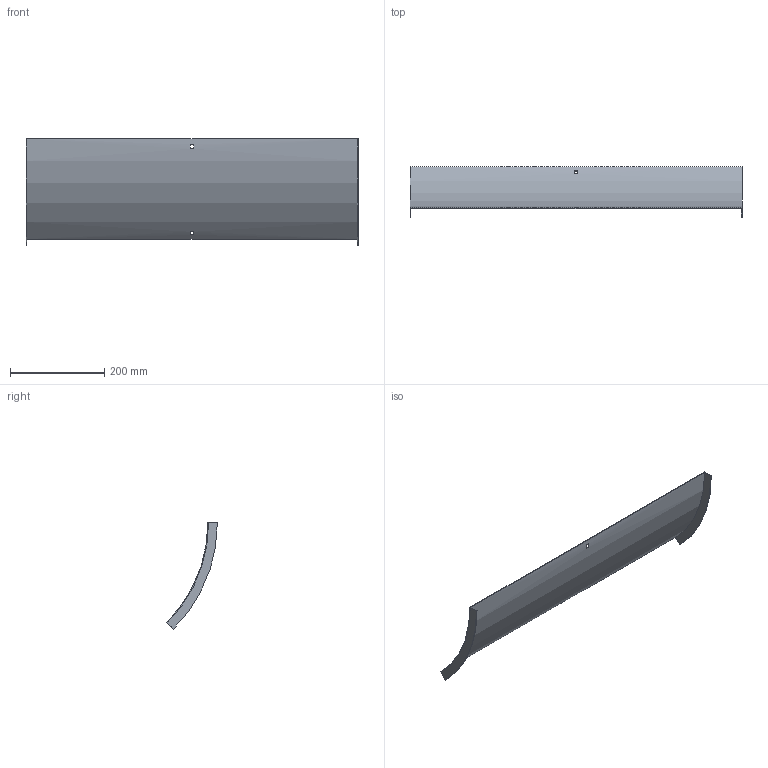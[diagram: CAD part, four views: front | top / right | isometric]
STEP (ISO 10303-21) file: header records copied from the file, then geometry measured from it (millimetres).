
FILE_DESCRIPTION (( 'STEP AP214' ), '1' );
FILE_NAME ('B2X31N3R700X.step', '2025-03-20T09:42:24', ( '' ), ( '' ), 'SwSTEP 2.0', 'SolidWorks 2023', '' );
FILE_SCHEMA (( 'AUTOMOTIVE_DESIGN' ));
Length unit declared in the file: millimetre
Products named in the file (1): B2X31N3R700X
Bounding box: 703 x 107.43 x 225.21 mm (x, y, z)
Volume: 261143.9 mm3; surface area: 351253.7 mm2
Topology: 1 solids, 1 shells, 18 faces, 48 edges, 32 vertices
Faces by surface type: plane 14, cylinder 4
Entity records: 599 total; most frequent: DIRECTION 102, CARTESIAN_POINT 99, ORIENTED_EDGE 96, EDGE_CURVE 48, AXIS2_PLACEMENT_3D 35, VERTEX_POINT 32, VECTOR 32, LINE 32
